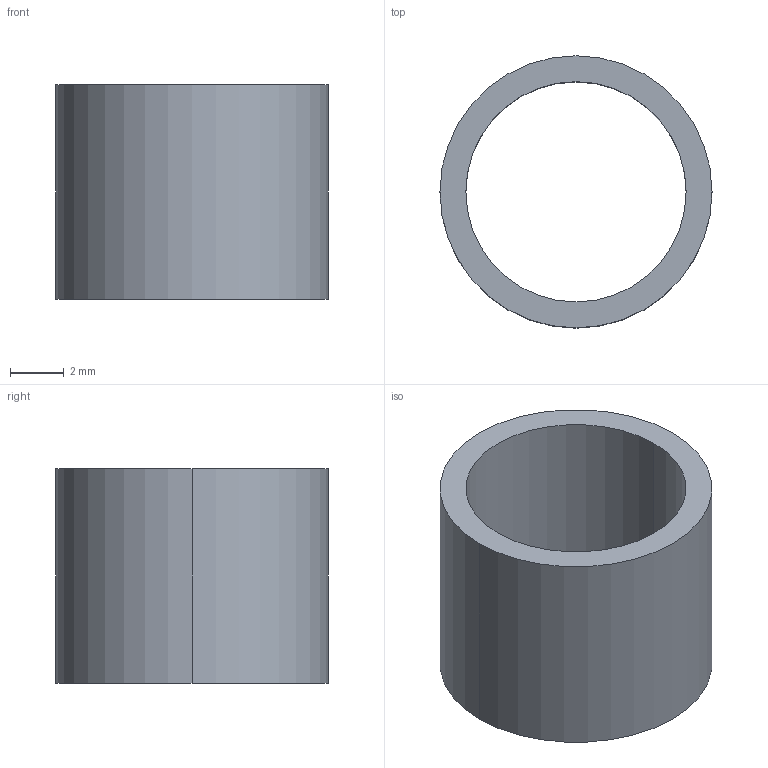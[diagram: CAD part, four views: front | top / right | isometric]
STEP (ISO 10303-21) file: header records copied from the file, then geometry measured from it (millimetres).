
FILE_DESCRIPTION (( 'STEP AP203' ), '1' );
FILE_NAME ('65104950.STEP', '2016-11-23T08:30:05', ( '' ), ( '' ), 'SwSTEP 2.0', 'SolidWorks 2015', '' );
FILE_SCHEMA (( 'CONFIG_CONTROL_DESIGN' ));
Length unit declared in the file: millimetre
Products named in the file (1): 65104950
Bounding box: 10.13 x 10.13 x 8 mm (x, y, z)
Volume: 222.3 mm3; surface area: 516.3 mm2
Topology: 1 solids, 1 shells, 6 faces, 12 edges, 8 vertices
Faces by surface type: cylinder 4, plane 2
Entity records: 245 total; most frequent: DIRECTION 34, CARTESIAN_POINT 27, ORIENTED_EDGE 24, AXIS2_PLACEMENT_3D 15, EDGE_CURVE 12, VERTEX_POINT 8, EDGE_LOOP 8, CIRCLE 8
